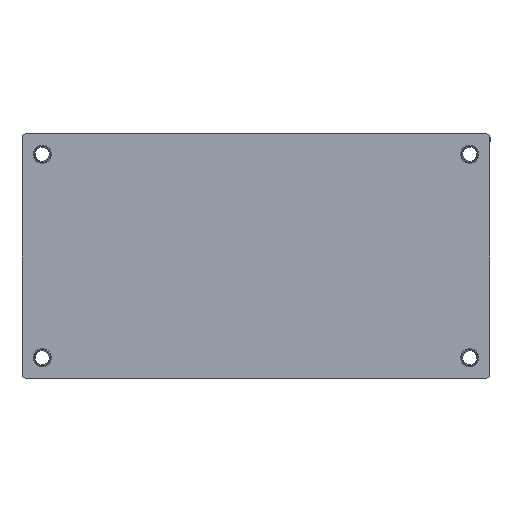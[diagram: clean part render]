
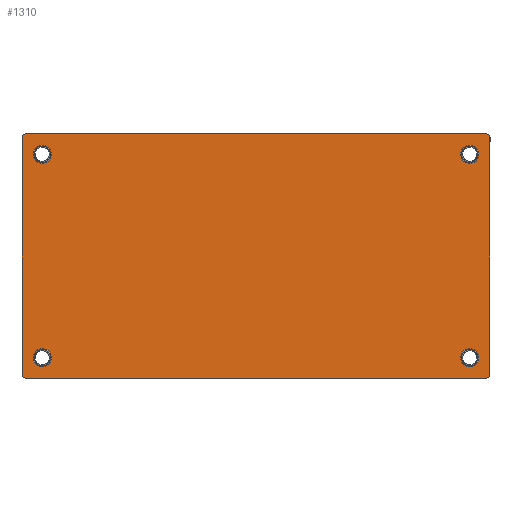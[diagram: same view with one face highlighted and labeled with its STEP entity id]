
A CAD part, front view. The second image highlights one B-rep face of the part: STEP entity #1310.
In plain terms, the highlighted planar face has unit normal (0, -1, 0).
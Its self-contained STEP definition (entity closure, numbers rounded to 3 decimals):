
#125 = CARTESIAN_POINT ( 'NONE',  ( 53.35, -1.5, -25.4 ) ) ;
#201 = CIRCLE ( 'NONE', #31041, 1. ) ;
#765 = VECTOR ( 'NONE', #2925, 1000. ) ;
#772 = EDGE_CURVE ( 'NONE', #5878, #1997, #5736, .T. ) ;
#935 = DIRECTION ( 'NONE',  ( 0., 0., -1. ) ) ;
#961 = DIRECTION ( 'NONE',  ( 0., 0., -1. ) ) ;
#1310 = ADVANCED_FACE ( 'NONE', ( #19275, #19435, #2635, #7241, #11855 ), #21193, .T. ) ;
#1543 = CARTESIAN_POINT ( 'NONE',  ( 58.4, -1.5, -30.5 ) ) ;
#1997 = VERTEX_POINT ( 'NONE', #25855 ) ;
#2270 = EDGE_LOOP ( 'NONE', ( #8493, #3862 ) ) ;
#2491 = DIRECTION ( 'NONE',  ( 0., -1., 0. ) ) ;
#2510 = CARTESIAN_POINT ( 'NONE',  ( -58.4, -1.5, -30.5 ) ) ;
#2570 = ORIENTED_EDGE ( 'NONE', *, *, #6434, .T. ) ;
#2635 = FACE_BOUND ( 'NONE', #2270, .T. ) ;
#2925 = DIRECTION ( 'NONE',  ( 1., 0., 0. ) ) ;
#3638 = AXIS2_PLACEMENT_3D ( 'NONE', #125, #24041, #29084 ) ;
#3740 = CARTESIAN_POINT ( 'NONE',  ( 58.4, -1.5, 29.5 ) ) ;
#3811 = CIRCLE ( 'NONE', #30088, 2.25 ) ;
#3862 = ORIENTED_EDGE ( 'NONE', *, *, #25552, .F. ) ;
#4264 = CARTESIAN_POINT ( 'NONE',  ( 58.4, -1.5, 30.5 ) ) ;
#4507 = CARTESIAN_POINT ( 'NONE',  ( -53.35, -1.5, -25.4 ) ) ;
#4553 = VERTEX_POINT ( 'NONE', #7751 ) ;
#4664 = EDGE_CURVE ( 'NONE', #16448, #14235, #19868, .T. ) ;
#4807 = CIRCLE ( 'NONE', #20981, 2.25 ) ;
#5103 = VERTEX_POINT ( 'NONE', #3740 ) ;
#5133 = CARTESIAN_POINT ( 'NONE',  ( 58.4, -1.5, -30.5 ) ) ;
#5463 = EDGE_CURVE ( 'NONE', #30267, #29046, #6772, .T. ) ;
#5552 = VERTEX_POINT ( 'NONE', #24353 ) ;
#5736 = CIRCLE ( 'NONE', #19889, 1. ) ;
#5776 = EDGE_CURVE ( 'NONE', #28512, #5103, #11212, .T. ) ;
#5791 = VECTOR ( 'NONE', #9808, 1000. ) ;
#5878 = VERTEX_POINT ( 'NONE', #9006 ) ;
#6434 = EDGE_CURVE ( 'NONE', #13254, #28512, #21984, .T. ) ;
#6772 = CIRCLE ( 'NONE', #24462, 2.25 ) ;
#6777 = CARTESIAN_POINT ( 'NONE',  ( 58.4, -1.5, 30.5 ) ) ;
#7140 = CARTESIAN_POINT ( 'NONE',  ( 53.35, -1.5, -27.65 ) ) ;
#7241 = FACE_BOUND ( 'NONE', #13845, .T. ) ;
#7358 = DIRECTION ( 'NONE',  ( 0., -1., 0. ) ) ;
#7490 = ORIENTED_EDGE ( 'NONE', *, *, #13262, .F. ) ;
#7751 = CARTESIAN_POINT ( 'NONE',  ( 57.4, -1.5, 30.5 ) ) ;
#7846 = ORIENTED_EDGE ( 'NONE', *, *, #30681, .T. ) ;
#8493 = ORIENTED_EDGE ( 'NONE', *, *, #5463, .F. ) ;
#8957 = EDGE_CURVE ( 'NONE', #11729, #14353, #11755, .T. ) ;
#9006 = CARTESIAN_POINT ( 'NONE',  ( -58.4, -1.5, -29.5 ) ) ;
#9059 = DIRECTION ( 'NONE',  ( 0., 0., -1. ) ) ;
#9161 = DIRECTION ( 'NONE',  ( 0., 0., -1. ) ) ;
#9284 = CARTESIAN_POINT ( 'NONE',  ( 53.35, -1.5, 25.4 ) ) ;
#9313 = VECTOR ( 'NONE', #13743, 1000. ) ;
#9505 = CARTESIAN_POINT ( 'NONE',  ( 53.35, -1.5, -23.15 ) ) ;
#9765 = ORIENTED_EDGE ( 'NONE', *, *, #19933, .F. ) ;
#9808 = DIRECTION ( 'NONE',  ( 0., 0., -1. ) ) ;
#10074 = DIRECTION ( 'NONE',  ( 0., 0., -1. ) ) ;
#10484 = DIRECTION ( 'NONE',  ( 0., -1., 0. ) ) ;
#10773 = CARTESIAN_POINT ( 'NONE',  ( 53.35, -1.5, -25.4 ) ) ;
#11110 = CARTESIAN_POINT ( 'NONE',  ( -53.35, -1.5, -25.4 ) ) ;
#11157 = CARTESIAN_POINT ( 'NONE',  ( -57.4, -1.5, 29.5 ) ) ;
#11212 = LINE ( 'NONE', #1543, #9313 ) ;
#11315 = VERTEX_POINT ( 'NONE', #18270 ) ;
#11323 = CIRCLE ( 'NONE', #28476, 2.25 ) ;
#11498 = DIRECTION ( 'NONE',  ( 0., -1., 0. ) ) ;
#11596 = DIRECTION ( 'NONE',  ( 0., -1., 0. ) ) ;
#11729 = VERTEX_POINT ( 'NONE', #7140 ) ;
#11738 = ORIENTED_EDGE ( 'NONE', *, *, #5776, .T. ) ;
#11755 = CIRCLE ( 'NONE', #3638, 2.25 ) ;
#11821 = DIRECTION ( 'NONE',  ( 0., -1., 0. ) ) ;
#11849 = EDGE_CURVE ( 'NONE', #20965, #5552, #201, .T. ) ;
#11855 = FACE_OUTER_BOUND ( 'NONE', #25371, .T. ) ;
#11883 = CARTESIAN_POINT ( 'NONE',  ( 53.35, -1.5, 25.4 ) ) ;
#12118 = CARTESIAN_POINT ( 'NONE',  ( 57.4, -1.5, -29.5 ) ) ;
#12812 = CARTESIAN_POINT ( 'NONE',  ( -53.35, -1.5, 25.4 ) ) ;
#13006 = CIRCLE ( 'NONE', #29170, 1. ) ;
#13254 = VERTEX_POINT ( 'NONE', #19790 ) ;
#13262 = EDGE_CURVE ( 'NONE', #14353, #11729, #4807, .T. ) ;
#13313 = DIRECTION ( 'NONE',  ( 0., -1., 0. ) ) ;
#13506 = EDGE_CURVE ( 'NONE', #5552, #5878, #14562, .T. ) ;
#13545 = EDGE_LOOP ( 'NONE', ( #26980, #9765 ) ) ;
#13743 = DIRECTION ( 'NONE',  ( 0., 0., 1. ) ) ;
#13845 = EDGE_LOOP ( 'NONE', ( #25078, #16408 ) ) ;
#13854 = EDGE_CURVE ( 'NONE', #14235, #16448, #3811, .T. ) ;
#14235 = VERTEX_POINT ( 'NONE', #22959 ) ;
#14249 = LINE ( 'NONE', #4264, #26619 ) ;
#14353 = VERTEX_POINT ( 'NONE', #9505 ) ;
#14497 = DIRECTION ( 'NONE',  ( 0., 0., -1. ) ) ;
#14562 = LINE ( 'NONE', #2510, #5791 ) ;
#14807 = ORIENTED_EDGE ( 'NONE', *, *, #24645, .T. ) ;
#14811 = LINE ( 'NONE', #5133, #765 ) ;
#15638 = CARTESIAN_POINT ( 'NONE',  ( -53.35, -1.5, -27.65 ) ) ;
#16388 = AXIS2_PLACEMENT_3D ( 'NONE', #4507, #11498, #30786 ) ;
#16408 = ORIENTED_EDGE ( 'NONE', *, *, #4664, .F. ) ;
#16448 = VERTEX_POINT ( 'NONE', #21748 ) ;
#16614 = DIRECTION ( 'NONE',  ( 0., 0., -1. ) ) ;
#17405 = ORIENTED_EDGE ( 'NONE', *, *, #772, .T. ) ;
#17574 = DIRECTION ( 'NONE',  ( 0., 0., -1. ) ) ;
#17653 = CARTESIAN_POINT ( 'NONE',  ( -53.35, -1.5, 25.4 ) ) ;
#17866 = DIRECTION ( 'NONE',  ( 0., -1., 0. ) ) ;
#17898 = CARTESIAN_POINT ( 'NONE',  ( -57.4, -1.5, -29.5 ) ) ;
#18270 = CARTESIAN_POINT ( 'NONE',  ( -53.35, -1.5, -23.15 ) ) ;
#18359 = AXIS2_PLACEMENT_3D ( 'NONE', #12812, #17866, #935 ) ;
#18906 = CIRCLE ( 'NONE', #16388, 2.25 ) ;
#18941 = DIRECTION ( 'NONE',  ( 0., 0., -1. ) ) ;
#19094 = EDGE_LOOP ( 'NONE', ( #7490, #19943 ) ) ;
#19275 = FACE_BOUND ( 'NONE', #19094, .T. ) ;
#19435 = FACE_BOUND ( 'NONE', #13545, .T. ) ;
#19790 = CARTESIAN_POINT ( 'NONE',  ( 57.4, -1.5, -30.5 ) ) ;
#19868 = CIRCLE ( 'NONE', #18359, 2.25 ) ;
#19889 = AXIS2_PLACEMENT_3D ( 'NONE', #17898, #10484, #961 ) ;
#19933 = EDGE_CURVE ( 'NONE', #23763, #11315, #11323, .T. ) ;
#19935 = AXIS2_PLACEMENT_3D ( 'NONE', #6777, #2491, #9161 ) ;
#19943 = ORIENTED_EDGE ( 'NONE', *, *, #8957, .F. ) ;
#20502 = CIRCLE ( 'NONE', #24060, 2.25 ) ;
#20806 = EDGE_CURVE ( 'NONE', #11315, #23763, #18906, .T. ) ;
#20965 = VERTEX_POINT ( 'NONE', #24745 ) ;
#20981 = AXIS2_PLACEMENT_3D ( 'NONE', #10773, #29604, #17574 ) ;
#21193 = PLANE ( 'NONE',  #19935 ) ;
#21748 = CARTESIAN_POINT ( 'NONE',  ( -53.35, -1.5, 23.15 ) ) ;
#21984 = CIRCLE ( 'NONE', #27531, 1. ) ;
#22103 = DIRECTION ( 'NONE',  ( 0., -1., 0. ) ) ;
#22959 = CARTESIAN_POINT ( 'NONE',  ( -53.35, -1.5, 27.65 ) ) ;
#23188 = DIRECTION ( 'NONE',  ( 0., -1., 0. ) ) ;
#23660 = DIRECTION ( 'NONE',  ( 0., 0., -1. ) ) ;
#23751 = CARTESIAN_POINT ( 'NONE',  ( 58.4, -1.5, -29.5 ) ) ;
#23763 = VERTEX_POINT ( 'NONE', #15638 ) ;
#24041 = DIRECTION ( 'NONE',  ( 0., -1., 0. ) ) ;
#24060 = AXIS2_PLACEMENT_3D ( 'NONE', #9284, #11821, #18941 ) ;
#24086 = CARTESIAN_POINT ( 'NONE',  ( 57.4, -1.5, 29.5 ) ) ;
#24353 = CARTESIAN_POINT ( 'NONE',  ( -58.4, -1.5, 29.5 ) ) ;
#24462 = AXIS2_PLACEMENT_3D ( 'NONE', #11883, #28642, #16614 ) ;
#24614 = ORIENTED_EDGE ( 'NONE', *, *, #11849, .T. ) ;
#24645 = EDGE_CURVE ( 'NONE', #1997, #13254, #14811, .T. ) ;
#24745 = CARTESIAN_POINT ( 'NONE',  ( -57.4, -1.5, 30.5 ) ) ;
#25078 = ORIENTED_EDGE ( 'NONE', *, *, #13854, .F. ) ;
#25371 = EDGE_LOOP ( 'NONE', ( #26156, #17405, #14807, #2570, #11738, #7846, #27255, #24614 ) ) ;
#25552 = EDGE_CURVE ( 'NONE', #29046, #30267, #20502, .T. ) ;
#25815 = DIRECTION ( 'NONE',  ( 0., 0., -1. ) ) ;
#25855 = CARTESIAN_POINT ( 'NONE',  ( -57.4, -1.5, -30.5 ) ) ;
#26156 = ORIENTED_EDGE ( 'NONE', *, *, #13506, .T. ) ;
#26430 = DIRECTION ( 'NONE',  ( -1., 0., 0. ) ) ;
#26619 = VECTOR ( 'NONE', #26430, 1000. ) ;
#26980 = ORIENTED_EDGE ( 'NONE', *, *, #20806, .F. ) ;
#27013 = CARTESIAN_POINT ( 'NONE',  ( 53.35, -1.5, 23.15 ) ) ;
#27255 = ORIENTED_EDGE ( 'NONE', *, *, #27592, .T. ) ;
#27531 = AXIS2_PLACEMENT_3D ( 'NONE', #12118, #7358, #14497 ) ;
#27592 = EDGE_CURVE ( 'NONE', #4553, #20965, #14249, .T. ) ;
#28476 = AXIS2_PLACEMENT_3D ( 'NONE', #11110, #13313, #25815 ) ;
#28512 = VERTEX_POINT ( 'NONE', #23751 ) ;
#28642 = DIRECTION ( 'NONE',  ( 0., -1., 0. ) ) ;
#29046 = VERTEX_POINT ( 'NONE', #27013 ) ;
#29084 = DIRECTION ( 'NONE',  ( 0., 0., -1. ) ) ;
#29170 = AXIS2_PLACEMENT_3D ( 'NONE', #24086, #11596, #9059 ) ;
#29604 = DIRECTION ( 'NONE',  ( 0., -1., 0. ) ) ;
#30021 = CARTESIAN_POINT ( 'NONE',  ( 53.35, -1.5, 27.65 ) ) ;
#30088 = AXIS2_PLACEMENT_3D ( 'NONE', #17653, #22103, #10074 ) ;
#30267 = VERTEX_POINT ( 'NONE', #30021 ) ;
#30681 = EDGE_CURVE ( 'NONE', #5103, #4553, #13006, .T. ) ;
#30786 = DIRECTION ( 'NONE',  ( 0., 0., -1. ) ) ;
#31041 = AXIS2_PLACEMENT_3D ( 'NONE', #11157, #23188, #23660 ) ;
